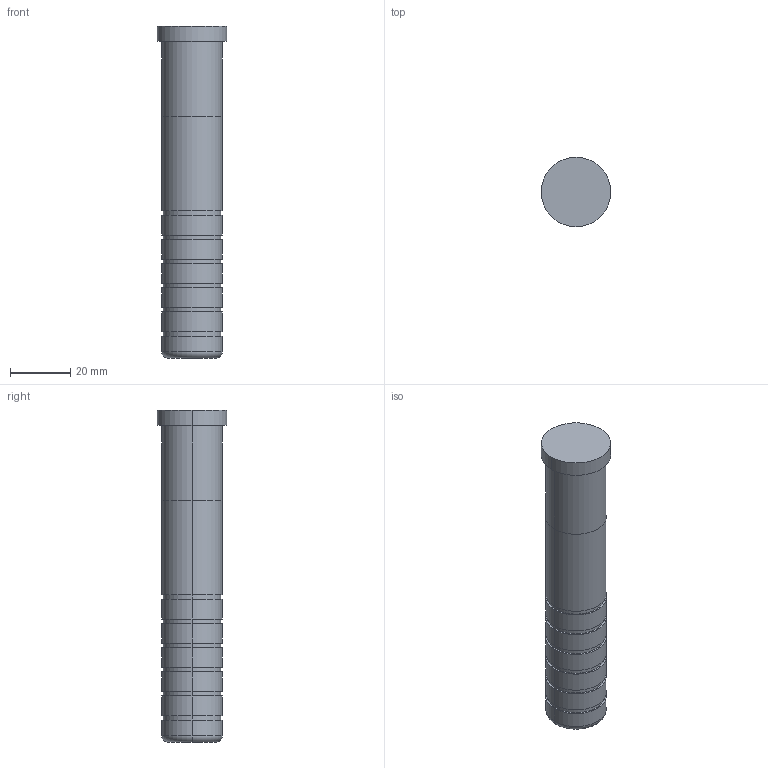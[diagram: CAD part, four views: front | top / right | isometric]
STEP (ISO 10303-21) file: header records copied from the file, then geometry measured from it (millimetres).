
FILE_DESCRIPTION(/* description */ (''),/* implementation_level */ '2;1');
FILE_NAME(/* name */ '3d_sgoh20-110_05197_r00.stp',/* time_stamp */ '2011-01-10T14:11:09+09:00',/* author */ ('MISUMI'),/* organization */ (''),/* preprocessor_version */ 'ST-DEVELOPER v11',/* originating_system */ 'UGS - NX 5.0',/* authorisation */ '');
FILE_SCHEMA (('CONFIG_CONTROL_DESIGN'));
Length unit declared in the file: millimetre
Products named in the file (1): 3d_sgoh20-110_05197_r00
Bounding box: 23 x 23 x 110 mm (x, y, z)
Volume: 34737.7 mm3; surface area: 8066.4 mm2
Topology: 1 solids, 1 shells, 49 faces, 96 edges, 62 vertices
Faces by surface type: cylinder 30, plane 15, torus 4
Entity records: 1374 total; most frequent: DIRECTION 262, CARTESIAN_POINT 208, ORIENTED_EDGE 192, AXIS2_PLACEMENT_3D 116, EDGE_CURVE 96, CIRCLE 66, EDGE_LOOP 62, VERTEX_POINT 62
